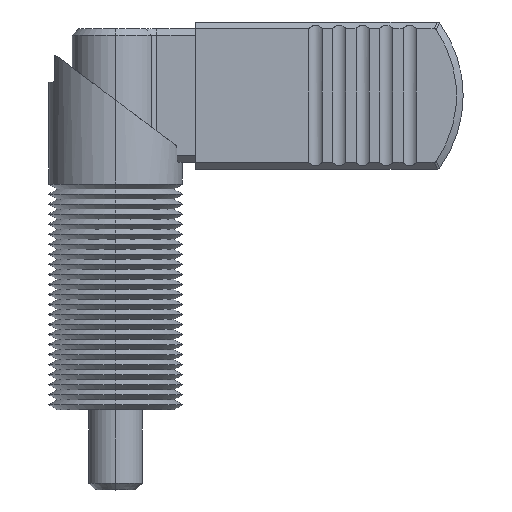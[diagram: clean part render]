
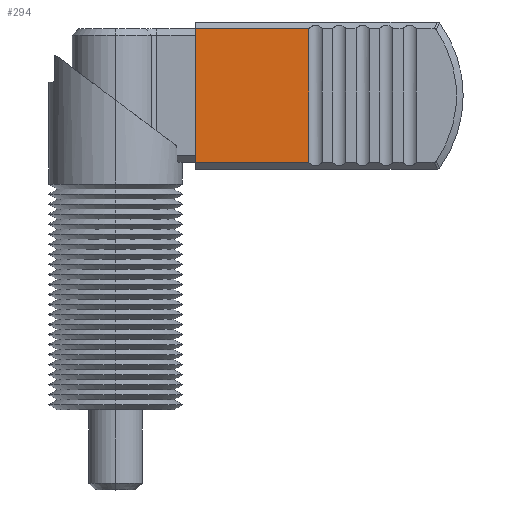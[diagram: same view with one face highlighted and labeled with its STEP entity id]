
A CAD part, top view. The second image highlights one B-rep face of the part: STEP entity #294.
In plain terms, the highlighted planar face has unit normal (0, 0, 1) as drawn and (-1, 0, 0) by its records, which use the part's own axes.
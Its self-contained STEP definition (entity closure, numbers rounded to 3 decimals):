
#264 = ORIENTED_EDGE ( 'NONE', *, *, #6592, .F. ) ;
#266 = EDGE_CURVE ( 'NONE', #271, #6593, #1814, .T. ) ;
#267 = ORIENTED_EDGE ( 'NONE', *, *, #338, .T. ) ;
#271 = VERTEX_POINT ( 'NONE', #1850 ) ;
#272 = ORIENTED_EDGE ( 'NONE', *, *, #266, .T. ) ;
#279 = VERTEX_POINT ( 'NONE', #1845 ) ;
#286 = EDGE_LOOP ( 'NONE', ( #287, #272, #264, #267 ) ) ;
#287 = ORIENTED_EDGE ( 'NONE', *, *, #288, .T. ) ;
#288 = EDGE_CURVE ( 'NONE', #279, #271, #1837, .T. ) ;
#294 = ADVANCED_FACE ( 'NONE', ( #1879 ), #1874, .T. ) ;
#338 = EDGE_CURVE ( 'NONE', #6597, #279, #1959, .T. ) ;
#1811 = DIRECTION ( 'NONE',  ( 0., 0., -1. ) ) ;
#1812 = VECTOR ( 'NONE', #1811, 1000. ) ;
#1813 = CARTESIAN_POINT ( 'NONE',  ( -4.25, 9.999, 0. ) ) ;
#1814 = LINE ( 'NONE', #1813, #1812 ) ;
#1834 = DIRECTION ( 'NONE',  ( 0., 1., 0. ) ) ;
#1835 = VECTOR ( 'NONE', #1834, 1000. ) ;
#1836 = CARTESIAN_POINT ( 'NONE',  ( -4.25, -11., 16.921 ) ) ;
#1837 = LINE ( 'NONE', #1836, #1835 ) ;
#1845 = CARTESIAN_POINT ( 'NONE',  ( -4.25, -9.999, 16.921 ) ) ;
#1850 = CARTESIAN_POINT ( 'NONE',  ( -4.25, 9.999, 16.921 ) ) ;
#1868 = DIRECTION ( 'NONE',  ( 0., 0., 1. ) ) ;
#1869 = DIRECTION ( 'NONE',  ( -1., 0., 0. ) ) ;
#1870 = CARTESIAN_POINT ( 'NONE',  ( -4.25, 0., 21.661 ) ) ;
#1873 = AXIS2_PLACEMENT_3D ( 'NONE', #1870, #1869, #1868 ) ;
#1874 = PLANE ( 'NONE',  #1873 ) ;
#1879 = FACE_OUTER_BOUND ( 'NONE', #286, .T. ) ;
#1956 = DIRECTION ( 'NONE',  ( 0., 0., 1. ) ) ;
#1957 = VECTOR ( 'NONE', #1956, 1000. ) ;
#1958 = CARTESIAN_POINT ( 'NONE',  ( -4.25, -9.999, 36.335 ) ) ;
#1959 = LINE ( 'NONE', #1958, #1957 ) ;
#5805 = CARTESIAN_POINT ( 'NONE',  ( -4.25, -9.999, 0. ) ) ;
#5810 = CARTESIAN_POINT ( 'NONE',  ( -4.25, 9.999, 0. ) ) ;
#5811 = DIRECTION ( 'NONE',  ( 0., 1., 0. ) ) ;
#5812 = VECTOR ( 'NONE', #5811, 1000. ) ;
#5813 = CARTESIAN_POINT ( 'NONE',  ( -4.25, -11., 0. ) ) ;
#5814 = LINE ( 'NONE', #5813, #5812 ) ;
#6592 = EDGE_CURVE ( 'NONE', #6597, #6593, #5814, .T. ) ;
#6593 = VERTEX_POINT ( 'NONE', #5810 ) ;
#6597 = VERTEX_POINT ( 'NONE', #5805 ) ;
